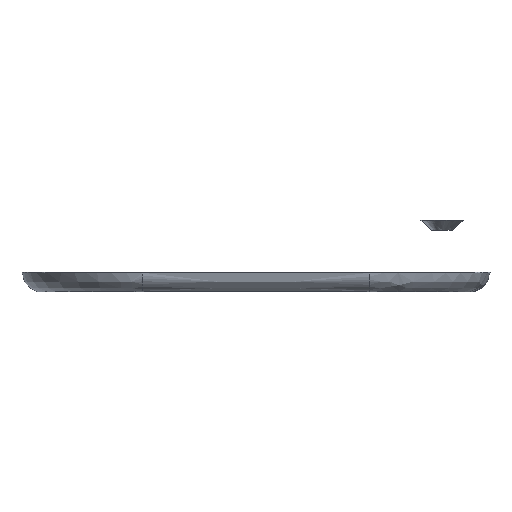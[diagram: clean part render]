
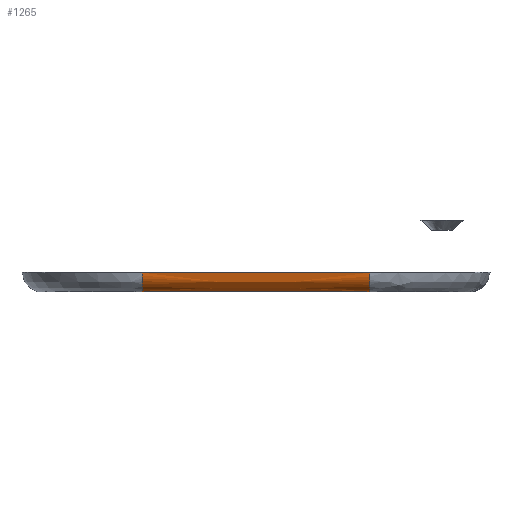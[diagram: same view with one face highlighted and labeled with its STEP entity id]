
A CAD part, left-side view. The second image highlights one B-rep face of the part: STEP entity #1265.
In plain terms, the highlighted face is a extrusion surface.
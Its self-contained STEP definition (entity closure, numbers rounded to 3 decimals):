
#56=CARTESIAN_POINT('',(-26.,69.,-10.764));
#58=CARTESIAN_POINT('',(-26.,69.,-10.764));
#59=CARTESIAN_POINT('',(-28.117,69.,-10.271));
#60=CARTESIAN_POINT('',(-29.819,69.,-8.483));
#61=CARTESIAN_POINT('',(-29.993,69.,-6.007));
#63=CARTESIAN_POINT('',(-29.993,69.,-6.007));
#259=CARTESIAN_POINT('',(-29.993,12.3,-6.007));
#383=DIRECTION('',(0.,1.,0.));
#384=VECTOR('',#383,56.7);
#385=CARTESIAN_POINT('',(-29.993,12.3,-6.007));
#386=LINE('',#385,#384);
#396=CARTESIAN_POINT('',(-29.993,12.3,-6.007));
#397=CARTESIAN_POINT('',(-29.819,12.3,-8.483));
#398=CARTESIAN_POINT('',(-28.117,12.3,-10.271));
#399=CARTESIAN_POINT('',(-26.,12.3,-10.764));
#401=DIRECTION('',(0.,1.,0.));
#402=VECTOR('',#401,56.7);
#403=CARTESIAN_POINT('',(-26.,12.3,-10.764));
#404=LINE('',#403,#402);
#409=VERTEX_POINT('',#63);
#417=VERTEX_POINT('',#259);
#423=VERTEX_POINT('',#56);
#424=CARTESIAN_POINT('',(-26.,12.3,-10.764));
#425=VERTEX_POINT('',#424);
#1250=CARTESIAN_POINT('',(-25.937,69.,
-10.778));
#1251=CARTESIAN_POINT('',(-28.102,69.,
-10.303));
#1252=CARTESIAN_POINT('',(-29.847,69.,
-8.475));
#1253=CARTESIAN_POINT('',(-29.998,69.,
-5.941));
#1255=DIRECTION('',(0.,-1.,0.));
#1256=VECTOR('',#1255,1.);
#1257=SURFACE_OF_LINEAR_EXTRUSION('',#1254,#1256);
#1259=ORIENTED_EDGE('',*,*,#1258,.T.);
#1260=ORIENTED_EDGE('',*,*,#576,.T.);
#1261=ORIENTED_EDGE('',*,*,#1242,.F.);
#1262=ORIENTED_EDGE('',*,*,#1196,.T.);
#1263=EDGE_LOOP('',(#1259,#1260,#1261,#1262));
#1264=FACE_OUTER_BOUND('',#1263,.F.);
#1265=ADVANCED_FACE('',(#1264),#1257,.F.);
#62=B_SPLINE_CURVE_WITH_KNOTS('',3,(#58,#59,#60,#61),.UNSPECIFIED.,.F.,.F.,(4,
4),(0.,1.),.UNSPECIFIED.);
#400=B_SPLINE_CURVE_WITH_KNOTS('',3,(#396,#397,#398,#399),.UNSPECIFIED.,.F.,.F.,
(4,4),(0.,1.),.UNSPECIFIED.);
#576=EDGE_CURVE('',#423,#409,#62,.T.);
#1196=EDGE_CURVE('',#417,#425,#400,.T.);
#1242=EDGE_CURVE('',#417,#409,#386,.T.);
#1254=B_SPLINE_CURVE_WITH_KNOTS('',3,(#1250,#1251,#1252,#1253),.UNSPECIFIED.,
.F.,.F.,(4,4),(0.,1.),.UNSPECIFIED.);
#1258=EDGE_CURVE('',#425,#423,#404,.T.);
